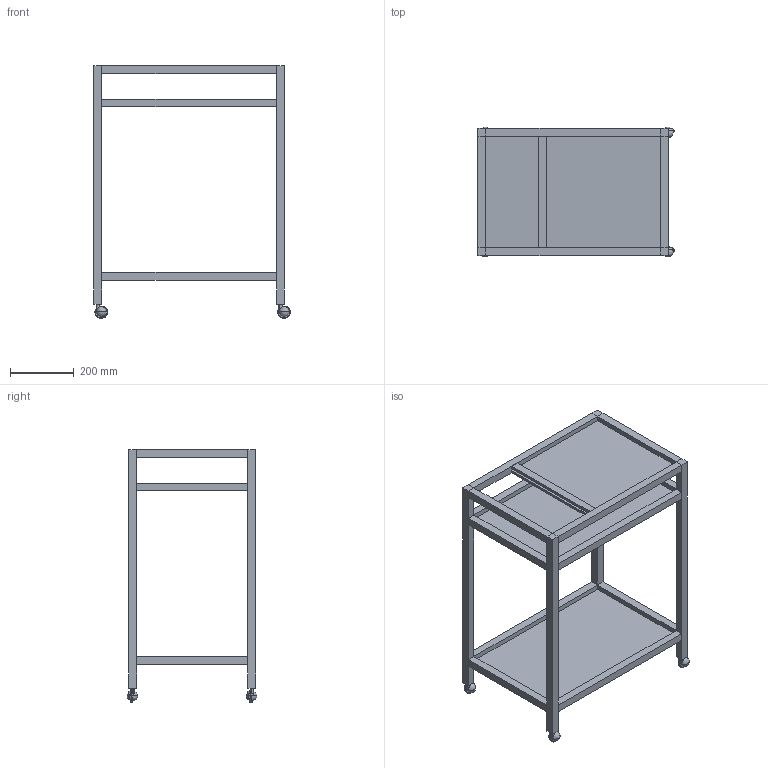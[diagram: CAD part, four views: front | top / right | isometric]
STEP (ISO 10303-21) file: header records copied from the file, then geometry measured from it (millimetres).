
FILE_DESCRIPTION(/* description */ (''),/* implementation_level */ '2;1');
FILE_NAME(/* name */ 'FRAMA_Ratio-Trolley-3D',/* time_stamp */ '2025-10-27T11:04:49+01:00',/* author */ (''),/* organization */ (''),/* preprocessor_version */ 'ST-DEVELOPER v16.5',/* originating_system */ 'Rhino 7.38',/* authorisation */ '');
FILE_SCHEMA (('CONFIG_CONTROL_DESIGN'));
Length unit declared in the file: millimetre
Products named in the file (1): Document
Bounding box: 617.93 x 408.75 x 794.99 mm (x, y, z)
Volume: 10098004.5 mm3; surface area: 2054113.7 mm2
Topology: 30 solids, 42 shells, 268 faces, 584 edges, 372 vertices
Faces by surface type: plane 196, bspline 52, cylinder 20
Entity records: 9062 total; most frequent: CARTESIAN_POINT 4959, ORIENTED_EDGE 1120, EDGE_CURVE 568, B_SPLINE_CURVE_WITH_KNOTS 388, VERTEX_POINT 372, EDGE_LOOP 280, ADVANCED_FACE 268, FACE_OUTER_BOUND 268
